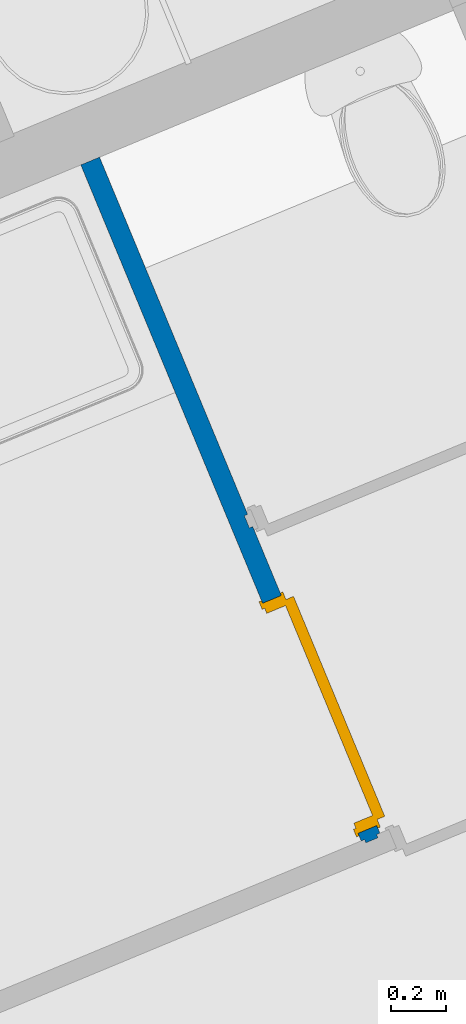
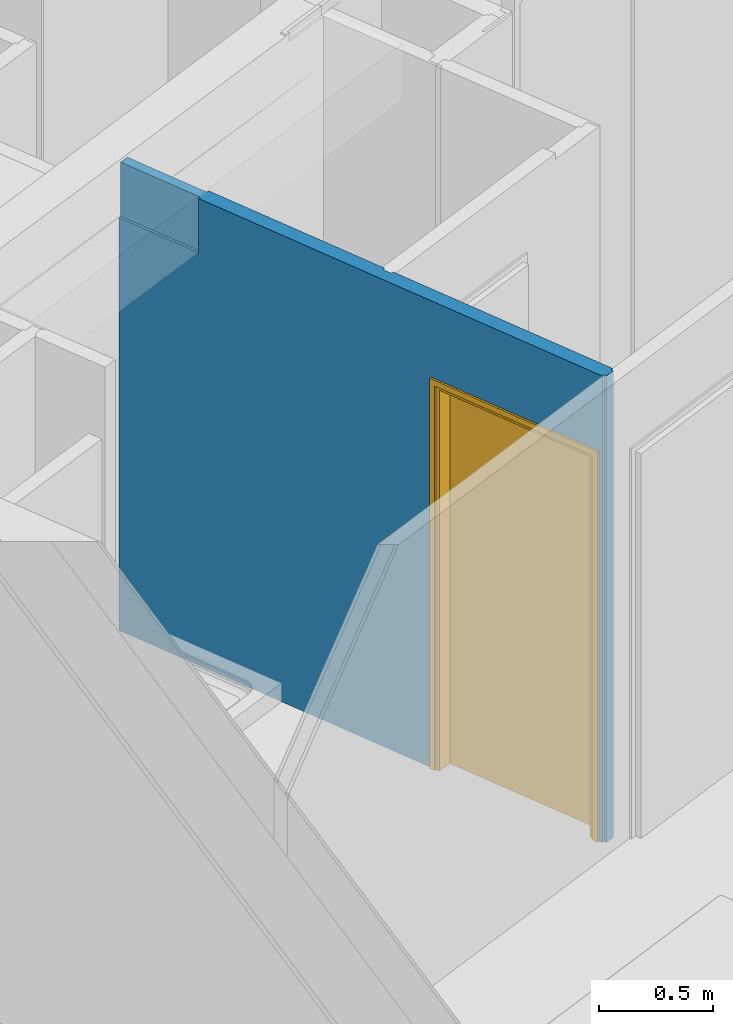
# One storey, part 6 of 90: 1 door, 1 wall, 1 opening.
"""IFC2X3 building model written with IfcOpenShell, lengths in metres."""

import ifcopenshell
import ifcopenshell.guid

model = None  # the IFC model being written
_history = None  # IfcOwnerHistory: only IFC2X3 demands one
_inside = {}  # id of a spatial element -> (the spatial element, [elements in it])
_under = {}  # id of a project, library or spatial element -> (it, [spatial elements below it])
_declared = {}  # id of a project -> (the project, [libraries it declares])
_typed = {}  # id of a type object -> (the type object, [elements of that type])
_made_of = {}  # id of a material, layer set ... -> (it, [elements and type objects made of it])


def new_model(schema):
    """Start an empty IFC model of exactly this schema.

    Asked for "IFC4X3", IfcOpenShell would pick the latest addendum, in which some entities
    have other attributes; the version numbers below select the first issue.
    IFC2X3 requires an IfcOwnerHistory on every rooted entity: one is made here for all.
    """
    global model, _history
    if schema == "IFC4X3":
        model = ifcopenshell.file(schema_version=(4, 3, 0, 0))
    else:
        model = ifcopenshell.file(schema=schema)
    _inside.clear()
    _under.clear()
    _declared.clear()
    _typed.clear()
    _made_of.clear()
    _history = None
    if model.schema == "IFC2X3":
        org = make("IfcOrganization", Name="unknown")
        user = make(
            "IfcPersonAndOrganization",
            ThePerson=make("IfcPerson", FamilyName="unknown"),
            TheOrganization=org,
        )
        app = make(
            "IfcApplication",
            ApplicationDeveloper=org,
            Version="unknown",
            ApplicationFullName="unknown",
            ApplicationIdentifier="unknown",
        )
        _history = make(
            "IfcOwnerHistory",
            OwningUser=user,
            OwningApplication=app,
            ChangeAction="ADDED",
            CreationDate=0,
        )
    return model


def make(cls, **values):
    """One entity of the class cls with the attributes given. An attribute that is None is left unset."""
    return model.create_entity(
        cls, **{name: value for name, value in values.items() if value is not None}
    )


def entity(cls, *values):
    """Any entity or typed value of the class cls, its attributes in the order of the schema. None: left unset."""
    e = model.create_entity(cls)
    for i, value in enumerate(values):
        if value is not None:
            e[i] = value
    return e


def rooted(cls, **values):
    """An entity with a GlobalId (a new one), such as an element, a storey or a relation."""
    return make(cls, GlobalId=ifcopenshell.guid.new(), OwnerHistory=_history, **values)


def si_unit(unit_type, name, prefix=None):
    """IfcSIUnit, for example si_unit("LENGTHUNIT", "METRE", prefix="MILLI")."""
    return make("IfcSIUnit", UnitType=unit_type, Prefix=prefix, Name=name)


def converted_unit(unit_type, name, factor, base, dimensions=None, offset=None):
    """IfcConversionBasedUnit, such as the inch: factor (a typed value) times the base unit."""
    return make(
        "IfcConversionBasedUnit"
        if offset is None
        else "IfcConversionBasedUnitWithOffset",
        ConversionOffset=offset,
        Dimensions=None
        if dimensions is None
        else entity("IfcDimensionalExponents", *dimensions),
        UnitType=unit_type,
        Name=name,
        ConversionFactor=make(
            "IfcMeasureWithUnit", ValueComponent=factor, UnitComponent=base
        ),
    )


def derived_unit(unit_type, elements):
    """IfcDerivedUnit: a product of units, each with its exponent."""
    return make(
        "IfcDerivedUnit",
        Elements=[
            make("IfcDerivedUnitElement", Unit=unit, Exponent=power)
            for unit, power in elements
        ],
        UnitType=unit_type,
    )


def money_unit(currency):
    """IfcMonetaryUnit."""
    return make("IfcMonetaryUnit", Currency=currency)


def assignment(units):
    """IfcUnitAssignment: the units of a project."""
    return None if units is None else make("IfcUnitAssignment", Units=units)


def point(xyz):
    """IfcCartesianPoint."""
    return None if xyz is None else make("IfcCartesianPoint", Coordinates=xyz)


def direction(xyz):
    """IfcDirection."""
    return None if xyz is None else make("IfcDirection", DirectionRatios=xyz)


def frame(location, z_axis=None, x_axis=None):
    """IfcAxis2Placement3D, a coordinate frame: its origin and axes. An axis left out is left unset."""
    return make(
        "IfcAxis2Placement3D",
        Location=point(location),
        Axis=direction(z_axis),
        RefDirection=direction(x_axis),
    )


def origin_with_axes():
    """The frame at (0, 0, 0) with the z axis (0, 0, 1) and the x axis (1, 0, 0) written out."""
    return frame((0.0, 0.0, 0.0), z_axis=(0.0, 0.0, 1.0), x_axis=(1.0, 0.0, 0.0))


def place(relative_to, where):
    """IfcLocalPlacement: puts the frame where relative to a parent placement (None: the world)."""
    return make(
        "IfcLocalPlacement", PlacementRelTo=relative_to, RelativePlacement=where
    )


def context(
    kind, dimensions, precision=None, world=None, true_north=None, identifier=None
):
    """IfcGeometricRepresentationContext, for example the 3D "Model" context."""
    return make(
        "IfcGeometricRepresentationContext",
        ContextIdentifier=identifier,
        ContextType=kind,
        CoordinateSpaceDimension=dimensions,
        Precision=precision,
        WorldCoordinateSystem=world,
        TrueNorth=true_north,
    )


def subcontext(parent, identifier, kind, view, scale=None):
    """IfcGeometricRepresentationSubContext, for example "Body" below "Model"."""
    return make(
        "IfcGeometricRepresentationSubContext",
        ContextIdentifier=identifier,
        ContextType=kind,
        ParentContext=parent,
        TargetScale=scale,
        TargetView=view,
    )


def project(units=None, contexts=None):
    """IfcProject with its units and contexts."""
    return rooted(
        "IfcProject",
        Name="project",
        RepresentationContexts=contexts,
        UnitsInContext=assignment(units),
    )


def spatial(cls, under=None, at=None, **own):
    """A site, building, storey or space (cls), placed at a placement, below another one or the project."""
    s = rooted(cls, ObjectPlacement=at, **own)
    if under is not None:
        _under.setdefault(under.id(), (under, []))[1].append(s)
    return s


def faces_of(points, faces, orient=None, outer=None):
    """IfcFace entities. A face is a list of loops; a loop is a list of indices into points, from 0.

    orient and outer hold one flag for each loop. By default every Orientation is true, the
    first loop of a face is its IfcFaceOuterBound and the others are IfcFaceBound.
    """
    made = []
    for i, loops in enumerate(faces):
        bounds = []
        for j, loop in enumerate(loops):
            is_outer = j == 0 if outer is None else outer[i][j]
            bounds.append(
                make(
                    "IfcFaceOuterBound" if is_outer else "IfcFaceBound",
                    Bound=make("IfcPolyLoop", Polygon=[points[k] for k in loop]),
                    Orientation=True if orient is None else orient[i][j],
                )
            )
        made.append(make("IfcFace", Bounds=bounds))
    return made


def faceted_brep(points, faces, orient=None, outer=None, voids=None):
    """IfcFacetedBrep: a solid bounded by flat faces; with voids (closed shells), ...WithVoids."""
    shared = [point(p) for p in points]
    hull = make("IfcClosedShell", CfsFaces=faces_of(shared, faces, orient, outer))
    if voids is None:
        return make("IfcFacetedBrep", Outer=hull)
    return make(
        "IfcFacetedBrepWithVoids",
        Outer=hull,
        Voids=[
            make(cls, CfsFaces=faces_of(shared, fs, o, b)) for cls, fs, o, b in voids
        ],
    )


def shape(context_of_items, identifier, shape_type, items):
    """IfcShapeRepresentation: the items that make up one representation, for example the "Body"."""
    return make(
        "IfcShapeRepresentation",
        ContextOfItems=context_of_items,
        RepresentationIdentifier=identifier,
        RepresentationType=shape_type,
        Items=items,
    )


def source(mapping_origin, context_of_items, identifier, shape_type, items):
    """IfcRepresentationMap: a shape defined once, which mapped items show again and again."""
    return make(
        "IfcRepresentationMap",
        MappingOrigin=mapping_origin,
        MappedRepresentation=shape(context_of_items, identifier, shape_type, items),
    )


def transform(
    local_origin,
    x_axis=None,
    y_axis=None,
    z_axis=None,
    scale=None,
    scale2=None,
    scale3=None,
    uniform=True,
):
    """IfcCartesianTransformationOperator3D, or its non-uniform kind. x_axis, y_axis, z_axis: its Axis1, 2, 3."""
    if uniform:
        return make(
            "IfcCartesianTransformationOperator3D",
            Axis1=direction(x_axis),
            Axis2=direction(y_axis),
            LocalOrigin=point(local_origin),
            Scale=scale,
            Axis3=direction(z_axis),
        )
    return make(
        "IfcCartesianTransformationOperator3DnonUniform",
        Axis1=direction(x_axis),
        Axis2=direction(y_axis),
        LocalOrigin=point(local_origin),
        Scale=scale,
        Axis3=direction(z_axis),
        Scale2=scale2,
        Scale3=scale3,
    )


def mapped(mapping_source, mapping_target):
    """IfcMappedItem: shows the shape of a source again, moved by a transform."""
    return make(
        "IfcMappedItem", MappingSource=mapping_source, MappingTarget=mapping_target
    )


def material(Name=None, Category=None):
    """IfcMaterial."""
    return make("IfcMaterial", Name=Name, Category=Category)


def material_list(materials):
    """IfcMaterialList."""
    return make("IfcMaterialList", Materials=materials)


def made_of(thing, what):
    """Note that an element or type object is made of a material, layer set ...; save() writes the relation."""
    if what is not None:
        _made_of.setdefault(what.id(), (what, []))[1].append(thing)
    return thing


def type_object(cls, material=None, **own):
    """A type object (cls), such as IfcWallType, which elements share."""
    return made_of(rooted(cls, **own), material)


def element(
    cls,
    number,
    at=None,
    inside=None,
    cuts=None,
    type_object=None,
    material=None,
    context=None,
    identifier="Body",
    shape_type=None,
    held_by="IfcProductDefinitionShape",
    body=None,
    shapes=None,
    **own,
):
    """One element of the class cls, such as IfcWall. Its Tag is "e" and its number.

    at: its placement. inside: the storey or other place that contains it. cuts: it is an
    opening in that element (IfcRelVoidsElement). A single representation is given by context,
    identifier, shape_type and body (its items); several are given by shapes. held_by: the class
    of the entity that holds the representations. save() writes the other relations.
    """
    e = rooted(cls, Tag="e%d" % number, ObjectPlacement=at, **own)
    if body is not None:
        shapes = [shape(context, identifier, shape_type, body)]
    if shapes is not None:
        e.Representation = make(held_by, Representations=shapes)
    if inside is not None:
        _inside.setdefault(inside.id(), (inside, []))[1].append(e)
    if cuts is not None:
        rooted(
            "IfcRelVoidsElement", RelatingBuildingElement=cuts, RelatedOpeningElement=e
        )
    if type_object is not None:
        _typed.setdefault(type_object.id(), (type_object, []))[1].append(e)
    return made_of(e, material)


def fill(opening, filler):
    """IfcRelFillsElement: the door or window that sits in an opening."""
    return rooted(
        "IfcRelFillsElement",
        RelatingOpeningElement=opening,
        RelatedBuildingElement=filler,
    )


def aggregate(whole, parts):
    """IfcRelAggregates: a whole, such as a stair, and the parts it consists of."""
    return rooted("IfcRelAggregates", RelatingObject=whole, RelatedObjects=parts)


def save(model, path):
    """Write the relations noted so far, then the file.

    IfcRelAggregates (storeys below a building ...), IfcRelContainedInSpatialStructure (elements
    in a storey), IfcRelDefinesByType, IfcRelAssociatesMaterial and IfcRelDeclares: one each for
    every whole, place, type object, material and project.
    """
    for whole, parts in _under.values():
        aggregate(whole, parts)
    for where, things in _inside.values():
        rooted(
            "IfcRelContainedInSpatialStructure",
            RelatedElements=things,
            RelatingStructure=where,
        )
    for kind, things in _typed.values():
        rooted("IfcRelDefinesByType", RelatedObjects=things, RelatingType=kind)
    for what, things in _made_of.values():
        rooted("IfcRelAssociatesMaterial", RelatedObjects=things, RelatingMaterial=what)
    for by, libraries in _declared.values():
        rooted("IfcRelDeclares", RelatingContext=by, RelatedDefinitions=libraries)
    model.write(path)


model = new_model("IFC2X3")

# Units and contexts
model_context = context("Model", 3, precision=1e-05, world=origin_with_axes(), true_north=direction((0.0, 1.0)))
body_context = subcontext(model_context, "Body", "Model", "MODEL_VIEW")
ifc_project = project(units=[si_unit("LENGTHUNIT", "METRE"), si_unit("AREAUNIT", "SQUARE_METRE"), si_unit("VOLUMEUNIT", "CUBIC_METRE"), converted_unit("PLANEANGLEUNIT", "DEGREE", entity("IfcPlaneAngleMeasure", 0.0174532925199), si_unit("PLANEANGLEUNIT", "RADIAN"), dimensions=[0, 0, 0, 0, 0, 0, 0]), si_unit("SOLIDANGLEUNIT", "STERADIAN"), money_unit("EUR"), converted_unit("TIMEUNIT", "Year", entity("IfcTimeMeasure", 31556926.0), si_unit("TIMEUNIT", "SECOND"), dimensions=[0, 0, 1, 0, 0, 0, 0]), si_unit("MASSUNIT", "GRAM", prefix="KILO"), si_unit("THERMODYNAMICTEMPERATUREUNIT", "DEGREE_CELSIUS"), si_unit("LUMINOUSINTENSITYUNIT", "LUMEN"), si_unit("ENERGYUNIT", "JOULE", prefix="MEGA"), derived_unit("THERMALCONDUCTANCEUNIT", [(si_unit("POWERUNIT", "WATT"), 1), (si_unit("LENGTHUNIT", "METRE"), -1), (si_unit("THERMODYNAMICTEMPERATUREUNIT", "KELVIN"), -1)]), derived_unit("SPECIFICHEATCAPACITYUNIT", [(si_unit("ENERGYUNIT", "JOULE"), 1), (si_unit("MASSUNIT", "GRAM", prefix="KILO"), -1), (si_unit("THERMODYNAMICTEMPERATUREUNIT", "KELVIN"), -1)]), derived_unit("MASSDENSITYUNIT", [(si_unit("MASSUNIT", "GRAM", prefix="KILO"), 1), (si_unit("VOLUMEUNIT", "CUBIC_METRE"), -1)])], contexts=[model_context])

# Site, building, storey
site_placement = place(None, origin_with_axes())
site = spatial("IfcSite", under=ifc_project, at=site_placement, Name="Site", CompositionType="ELEMENT")
building_placement = place(site_placement, origin_with_axes())
building = spatial("IfcBuilding", under=site, at=building_placement, Name="Bâtiment", CompositionType="ELEMENT")
storey_placement = place(building_placement, frame((0.0, 0.0, 2.72), z_axis=(0.0, 0.0, 1.0), x_axis=(1.0, 0.0, 0.0)))
storey = spatial("IfcBuildingStorey", under=building, at=storey_placement, Name="R+1", CompositionType="ELEMENT", Elevation=2.72)

# Wall, opening, door
ifc_material_1 = material(Name="Finition int - Plaque de plâtre")
ifc_material_2 = material(Name="Isolation - Laine de roche")
ifc_material_list = material_list([ifc_material_1, ifc_material_2, ifc_material_1])
wall_type = type_object("IfcWallType", Name="3 - Cloison 72mm Placostil 74", PredefinedType="USERDEFINED")
wall_placement = place(storey_placement, frame((-30.8349702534, -21.698108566, 0.0), z_axis=(0.0, 0.0, 1.0), x_axis=(0.383112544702, -0.923701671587, 0.0)))
wall = element("IfcWall", 1, at=wall_placement, inside=storey, type_object=wall_type, material=ifc_material_list, Name="Cloison Placostil 72/48", ObjectType="PARTITIONING", context=body_context, shape_type="Brep", body=[
    faceted_brep([(0.0, 0.0, 2.21), (0.438999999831, 0.0, 2.21), (0.438999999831, 0.0, 2.5), (1.4129999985, 0.0, 2.5), (1.4129999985, 0.0, 0.0), (0.0, 0.0, 0.0), (0.0, -0.013, 2.21), (0.438999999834, -0.013, 2.21), (0.438999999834, -0.013, 2.5), (1.4129999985, -0.013, 2.5), (1.4129999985, -0.013, 0.0), (0.0, -0.013, 0.0)], [[[0, 1, 2, 3, 4, 5]], [[1, 0, 6, 7]], [[8, 2, 1, 7]], [[2, 8, 9, 3]], [[3, 9, 10, 4]], [[4, 10, 11, 5]], [[6, 0, 5, 11]], [[7, 6, 11, 10, 9, 8]]]),
    faceted_brep([(1.73362449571, 0.0, 2.08), (1.73362449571, 0.0, 0.0), (1.4609999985, 0.0, 0.0), (1.4609999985, 0.0, 2.5), (2.67362449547, 0.0, 2.5), (2.67362449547, 0.0, 0.0), (2.64362449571, 0.0, 0.0), (2.64362449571, 0.0, 2.08), (1.73362449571, -0.013, 2.08), (1.73362449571, -0.013, 0.0), (1.4609999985, -0.013, 0.0), (1.4609999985, -0.013, 2.5), (2.67362449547, -0.013, 2.5), (2.67362449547, -0.013, 0.0), (2.64362449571, -0.013, 0.0), (2.64362449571, -0.013, 2.08)], [[[0, 1, 2, 3, 4, 5, 6, 7]], [[1, 0, 8, 9]], [[1, 9, 10, 2]], [[11, 3, 2, 10]], [[4, 3, 11, 12]], [[12, 13, 5, 4]], [[14, 6, 5, 13]], [[7, 6, 14, 15]], [[0, 7, 15, 8]], [[15, 14, 13, 12, 11, 10, 9, 8]]]),
    faceted_brep([(1.73362449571, -0.013, 2.08), (1.73362449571, -0.013, 0.0), (0.0, -0.013, 0.0), (0.0, -0.013, 2.5), (2.68662449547, -0.013, 2.5), (2.68662449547, -0.013, 0.0), (2.64362449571, -0.013, 0.0), (2.64362449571, -0.013, 2.08), (1.73362449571, -0.061, 2.08), (1.73362449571, -0.061, 0.0), (0.0, -0.061, 0.0), (0.0, -0.061, 2.5), (2.68662449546, -0.061, 2.5), (2.68662449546, -0.061, 0.0), (2.64362449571, -0.061, 0.0), (2.64362449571, -0.061, 2.08)], [[[0, 1, 2, 3, 4, 5, 6, 7]], [[1, 0, 8, 9]], [[1, 9, 10, 2]], [[11, 3, 2, 10]], [[4, 3, 11, 12]], [[12, 13, 5, 4]], [[14, 6, 5, 13]], [[7, 6, 14, 15]], [[0, 7, 15, 8]], [[15, 14, 13, 12, 11, 10, 9, 8]]]),
    faceted_brep([(1.73362449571, -0.061, 2.08), (1.73362449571, -0.061, 0.0), (0.0, -0.061, 0.0), (0.0, -0.061, 2.21), (0.438999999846, -0.061, 2.21), (0.438999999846, -0.061, 2.5), (2.67362449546, -0.061, 2.5), (2.67362449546, -0.061, 0.0), (2.64362449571, -0.061, 0.0), (2.64362449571, -0.061, 2.08), (1.73362449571, -0.074, 2.08), (1.73362449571, -0.074, 0.0), (0.0, -0.074, 0.0), (0.0, -0.074, 2.21), (0.438999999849, -0.074, 2.21), (0.438999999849, -0.074, 2.5), (2.67362449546, -0.074, 2.5), (2.67362449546, -0.074, 0.0), (2.64362449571, -0.074, 0.0), (2.64362449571, -0.074, 2.08)], [[[0, 1, 2, 3, 4, 5, 6, 7, 8, 9]], [[1, 0, 10, 11]], [[1, 11, 12, 2]], [[3, 2, 12, 13]], [[3, 13, 14, 4]], [[5, 4, 14, 15]], [[15, 16, 6, 5]], [[16, 17, 7, 6]], [[18, 8, 7, 17]], [[9, 8, 18, 19]], [[0, 9, 19, 10]], [[19, 18, 17, 16, 15, 14, 13, 12, 11, 10]]]),
])
opening_placement = place(wall_placement, frame((2.18862449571, 0.0, 0.0), z_axis=(0.0, 0.0, 1.0), x_axis=(1.0, 0.0, 0.0)))
opening = element("IfcOpeningElement", 2, at=opening_placement, cuts=wall, Name="Porte 83x204 bois alvéolaire", context=body_context, shape_type="Brep", body=[
    faceted_brep([(0.455, -0.074, 0.0), (-0.455, -0.074, 0.0), (-0.455, 0.074, 0.0), (0.455, 0.074, 0.0), (0.455, -0.074, 2.08), (-0.455, -0.074, 2.08), (-0.455, 0.074, 2.08), (0.455, 0.074, 2.08)], [[[0, 1, 2, 3]], [[0, 4, 5, 1]], [[1, 5, 6, 2]], [[3, 2, 6, 7]], [[4, 0, 3, 7]], [[5, 4, 7, 6]]]),
])
door_style = type_object("IfcDoorStyle", Name="Porte int générique 2019", ConstructionType="NOTDEFINED", OperationType="SINGLE_SWING_RIGHT", ParameterTakesPrecedence=False, Sizeable=False)
shared_shape = source(origin_with_axes(), body_context, "Body", "Brep", [
    faceted_brep([(0.455, 0.0, 0.0), (0.415, 0.0, 0.0), (0.415, 0.0, 2.04), (-0.415, 0.0, 2.04), (-0.415, 0.0, 0.0), (-0.455, 0.0, 0.0), (-0.455, 0.0, 2.08), (0.455, 0.0, 2.08), (0.455, -0.074, 0.0), (0.415, -0.074, 0.0), (0.415, -0.074, 2.04), (-0.415, -0.074, 2.04), (-0.415, -0.074, 0.0), (-0.455, -0.074, 0.0), (-0.455, -0.074, 2.08), (0.455, -0.074, 2.08)], [[[0, 1, 2, 3, 4, 5, 6, 7]], [[0, 8, 9, 1]], [[1, 9, 10, 2]], [[2, 10, 11, 3]], [[3, 11, 12, 4]], [[5, 4, 12, 13]], [[14, 6, 5, 13]], [[15, 7, 6, 14]], [[8, 0, 7, 15]], [[9, 8, 15, 14, 13, 12, 11, 10]]]),
    faceted_brep([(0.465, 0.0, 0.0), (0.465, 0.01, 0.0), (0.465, 0.01, 2.09), (0.465, 0.0, 2.09), (0.435, 0.0, 0.0), (0.435, 0.01, 0.0), (0.435, 0.01, 2.06), (-0.435, 0.01, 2.06), (-0.435, 0.01, 0.0), (-0.465, 0.01, 0.0), (-0.465, 0.01, 2.09), (-0.465, 0.0, 2.09), (-0.465, 0.0, 0.0), (-0.435, 0.0, 0.0), (-0.435, 0.0, 2.06), (0.435, 0.0, 2.06)], [[[0, 1, 2, 3]], [[0, 4, 5, 1]], [[1, 5, 6, 7, 8, 9, 10, 2]], [[3, 2, 10, 11]], [[4, 0, 3, 11, 12, 13, 14, 15]], [[5, 4, 15, 6]], [[6, 15, 14, 7]], [[7, 14, 13, 8]], [[12, 9, 8, 13]], [[11, 10, 9, 12]]]),
    faceted_brep([(0.465, -0.084, 0.0), (0.465, -0.074, 0.0), (0.465, -0.074, 2.09), (0.465, -0.084, 2.09), (0.435, -0.084, 0.0), (0.435, -0.074, 0.0), (0.435, -0.074, 2.06), (-0.435, -0.074, 2.06), (-0.435, -0.074, 0.0), (-0.465, -0.074, 0.0), (-0.465, -0.074, 2.09), (-0.465, -0.084, 2.09), (-0.465, -0.084, 0.0), (-0.435, -0.084, 0.0), (-0.435, -0.084, 2.06), (0.435, -0.084, 2.06)], [[[0, 1, 2, 3]], [[0, 4, 5, 1]], [[1, 5, 6, 7, 8, 9, 10, 2]], [[3, 2, 10, 11]], [[4, 0, 3, 11, 12, 13, 14, 15]], [[5, 4, 15, 6]], [[6, 15, 14, 7]], [[7, 14, 13, 8]], [[12, 9, 8, 13]], [[11, 10, 9, 12]]]),
    faceted_brep([(0.435, 0.04, 0.0), (0.435, 0.0, 0.0), (-0.435, 0.0, 0.0), (-0.435, 0.04, 0.0), (0.435, 0.04, 2.06), (0.435, 0.0, 2.06), (-0.435, 0.0, 2.06), (-0.435, 0.04, 2.06)], [[[0, 1, 2, 3]], [[4, 5, 1, 0]], [[1, 5, 6, 2]], [[3, 2, 6, 7]], [[0, 3, 7, 4]], [[7, 6, 5, 4]]]),
])
door_placement = place(opening_placement, frame((-0.415, 0.0, 0.0), z_axis=(0.0, 0.0, 1.0), x_axis=(1.0, 0.0, 0.0)))
door = element("IfcDoor", 3, at=door_placement, inside=storey, type_object=door_style, Name="Porte 83x204 bois alvéolaire", ObjectType="DOOR", OverallHeight=2.04, OverallWidth=0.83, context=body_context, shape_type="MappedRepresentation", body=[
    mapped(shared_shape, transform((0.415, 0.0, 0.0))),
])
fill(opening, door)

save(model, "model.ifc")
